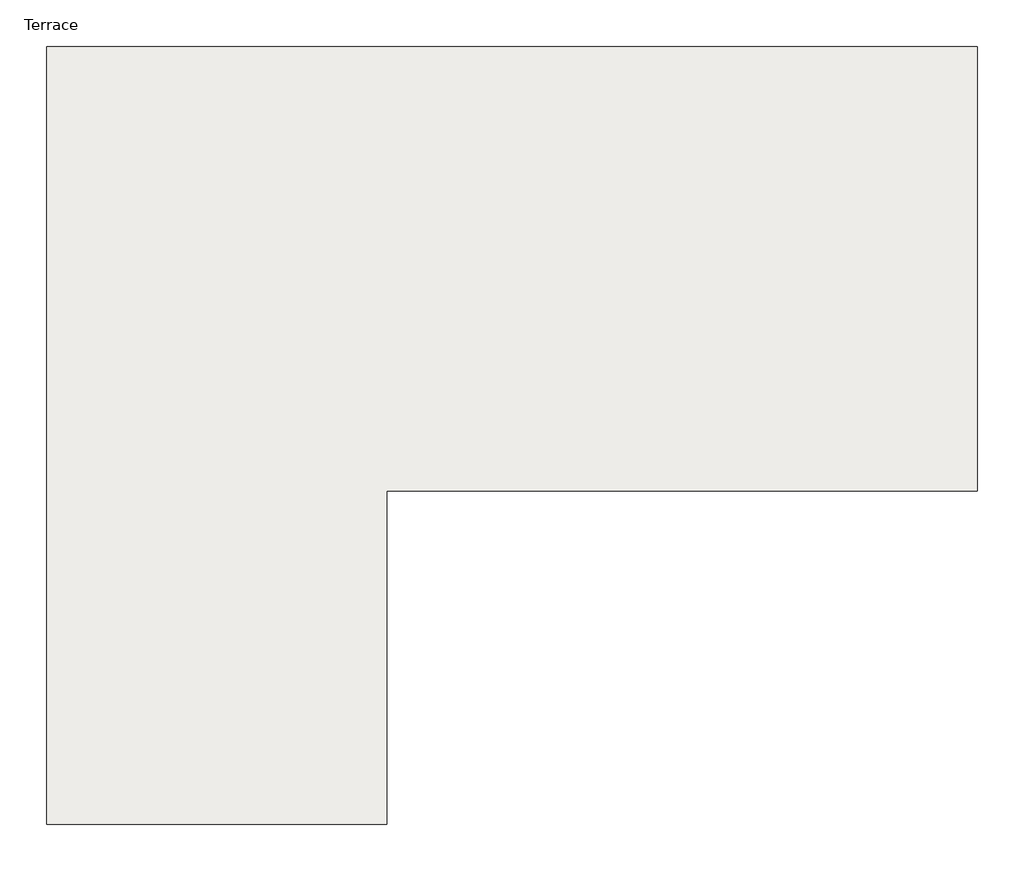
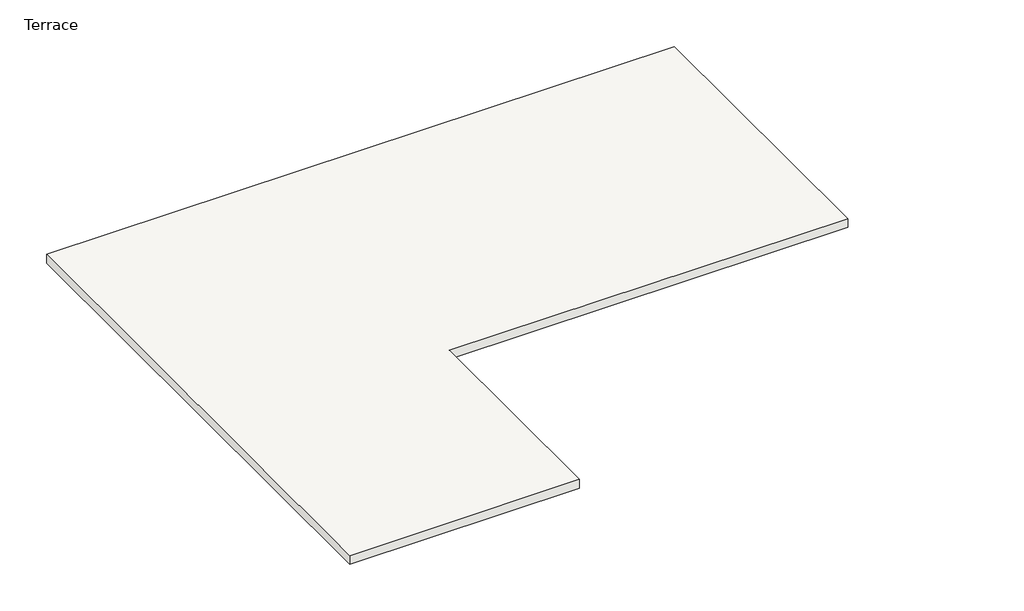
# One storey: 1 slab.
"""IFC4 building model written with IfcOpenShell, lengths in millimetres."""

from ifc_helpers import new_model, si_unit, frame, origin, place, context, project, spatial, polyline, outline, extrude, element, save

model = new_model("IFC4")

# Units and contexts
model_context = context("Model", 3, world=origin())
ifc_project = project(units=[si_unit("LENGTHUNIT", "METRE", prefix="MILLI")], contexts=[model_context])

# Site, building, storey
site = spatial("IfcSite", under=ifc_project)
building = spatial("IfcBuilding", under=site)
storey = spatial("IfcBuildingStorey", under=building, Name="Terrace", Elevation=12801.6)

# Slab
placement = place(None, origin())
element("IfcSlab", 1, ObjectType="6\" Concrete", at=placement, inside=storey, context=model_context, shape_type="SweptSolid", body=[
    extrude(outline(polyline([(-20112.218666, 11591.0753347), (-20112.218666, 7933.4753347), (-23846.018666, 7933.4753347), (-23846.018666, 16467.8753347), (-13635.218666, 16467.8753347), (-13635.218666, 11591.0753347), (-20112.218666, 11591.0753347)])), frame((0.0, 0.0, 12649.2), z_axis=(0.0, 0.0, 1.0), x_axis=(1.0, 0.0, 0.0)), (0.0, 0.0, 1.0), 152.4),
])

save(model, "model.ifc")
